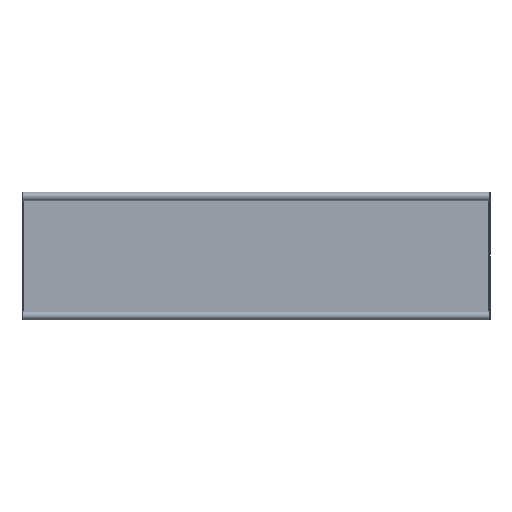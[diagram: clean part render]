
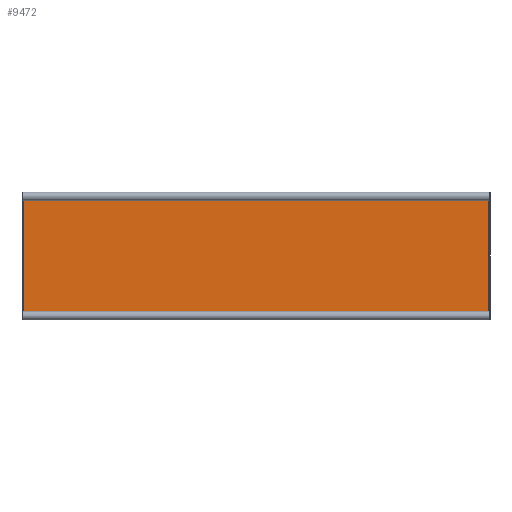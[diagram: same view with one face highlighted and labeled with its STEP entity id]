
A CAD part, front view. The second image highlights one B-rep face of the part: STEP entity #9472.
In plain terms, the highlighted planar face has unit normal (0, -1, 0).
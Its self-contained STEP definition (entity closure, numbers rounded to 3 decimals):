
#93 = DIRECTION ( 'NONE',  ( 0., 0., 1. ) ) ;
#97 = CARTESIAN_POINT ( 'NONE',  ( 546., -2., -149. ) ) ;
#411 = DIRECTION ( 'NONE',  ( 0., 1., 0. ) ) ;
#523 = CARTESIAN_POINT ( 'NONE',  ( -549., -2., 146. ) ) ;
#553 = PLANE ( 'NONE',  #661 ) ;
#661 = AXIS2_PLACEMENT_3D ( 'NONE', #4473, #411, #6706 ) ;
#732 = CARTESIAN_POINT ( 'NONE',  ( 546., -2., -145. ) ) ;
#820 = VERTEX_POINT ( 'NONE', #1313 ) ;
#1010 = EDGE_CURVE ( 'NONE', #2019, #820, #4318, .T. ) ;
#1013 = VECTOR ( 'NONE', #4876, 1000. ) ;
#1258 = ORIENTED_EDGE ( 'NONE', *, *, #4924, .F. ) ;
#1313 = CARTESIAN_POINT ( 'NONE',  ( -546., -2., 145. ) ) ;
#1361 = DIRECTION ( 'NONE',  ( 0., -1., 0. ) ) ;
#1382 = DIRECTION ( 'NONE',  ( 1., 0., 0. ) ) ;
#1557 = AXIS2_PLACEMENT_3D ( 'NONE', #5482, #6294, #93 ) ;
#1749 = DIRECTION ( 'NONE',  ( 0., 0., 1. ) ) ;
#1987 = CARTESIAN_POINT ( 'NONE',  ( -545., -2., 146. ) ) ;
#2019 = VERTEX_POINT ( 'NONE', #4567 ) ;
#2188 = VECTOR ( 'NONE', #1382, 1000. ) ;
#2276 = ORIENTED_EDGE ( 'NONE', *, *, #6664, .F. ) ;
#2418 = ORIENTED_EDGE ( 'NONE', *, *, #5434, .F. ) ;
#2464 = VERTEX_POINT ( 'NONE', #4199 ) ;
#2495 = CIRCLE ( 'NONE', #8157, 5. ) ;
#2729 = CARTESIAN_POINT ( 'NONE',  ( -549., -2., -146. ) ) ;
#2918 = CARTESIAN_POINT ( 'NONE',  ( 549., -2., -149. ) ) ;
#2975 = EDGE_CURVE ( 'NONE', #820, #3569, #8206, .T. ) ;
#3013 = EDGE_LOOP ( 'NONE', ( #2276, #6821, #2418, #1258, #9251, #6206, #6620, #8239 ) ) ;
#3329 = DIRECTION ( 'NONE',  ( 0., 0., 1. ) ) ;
#3569 = VERTEX_POINT ( 'NONE', #1987 ) ;
#3657 = DIRECTION ( 'NONE',  ( 1., 0., 0. ) ) ;
#3964 = AXIS2_PLACEMENT_3D ( 'NONE', #2918, #6612, #1749 ) ;
#3969 = CARTESIAN_POINT ( 'NONE',  ( 546., -2., 145. ) ) ;
#4011 = CARTESIAN_POINT ( 'NONE',  ( 545., -2., -146. ) ) ;
#4025 = LINE ( 'NONE', #97, #1013 ) ;
#4199 = CARTESIAN_POINT ( 'NONE',  ( 545., -2., 146. ) ) ;
#4318 = LINE ( 'NONE', #5744, #8688 ) ;
#4470 = DIRECTION ( 'NONE',  ( 0., 0., 1. ) ) ;
#4473 = CARTESIAN_POINT ( 'NONE',  ( -549., -2., -149. ) ) ;
#4567 = CARTESIAN_POINT ( 'NONE',  ( -546., -2., -145. ) ) ;
#4778 = DIRECTION ( 'NONE',  ( 0., -1., 0. ) ) ;
#4876 = DIRECTION ( 'NONE',  ( 0., 0., 1. ) ) ;
#4890 = VERTEX_POINT ( 'NONE', #732 ) ;
#4924 = EDGE_CURVE ( 'NONE', #3569, #2464, #7489, .T. ) ;
#5434 = EDGE_CURVE ( 'NONE', #2464, #10049, #2495, .T. ) ;
#5482 = CARTESIAN_POINT ( 'NONE',  ( -549., -2., 149. ) ) ;
#5596 = CARTESIAN_POINT ( 'NONE',  ( -549., -2., -149. ) ) ;
#5744 = CARTESIAN_POINT ( 'NONE',  ( -546., -2., -149. ) ) ;
#6074 = EDGE_CURVE ( 'NONE', #4890, #10049, #4025, .T. ) ;
#6206 = ORIENTED_EDGE ( 'NONE', *, *, #1010, .F. ) ;
#6294 = DIRECTION ( 'NONE',  ( 0., -1., 0. ) ) ;
#6393 = CIRCLE ( 'NONE', #3964, 5. ) ;
#6612 = DIRECTION ( 'NONE',  ( 0., -1., 0. ) ) ;
#6620 = ORIENTED_EDGE ( 'NONE', *, *, #8899, .F. ) ;
#6664 = EDGE_CURVE ( 'NONE', #4890, #6708, #6393, .T. ) ;
#6706 = DIRECTION ( 'NONE',  ( 0., 0., 1. ) ) ;
#6708 = VERTEX_POINT ( 'NONE', #4011 ) ;
#6821 = ORIENTED_EDGE ( 'NONE', *, *, #6074, .T. ) ;
#6971 = CIRCLE ( 'NONE', #9253, 5. ) ;
#6989 = VERTEX_POINT ( 'NONE', #9900 ) ;
#7489 = LINE ( 'NONE', #523, #9376 ) ;
#7965 = EDGE_CURVE ( 'NONE', #6989, #6708, #9691, .T. ) ;
#8157 = AXIS2_PLACEMENT_3D ( 'NONE', #9098, #1361, #4470 ) ;
#8206 = CIRCLE ( 'NONE', #1557, 5. ) ;
#8239 = ORIENTED_EDGE ( 'NONE', *, *, #7965, .T. ) ;
#8284 = FACE_OUTER_BOUND ( 'NONE', #3013, .T. ) ;
#8688 = VECTOR ( 'NONE', #3329, 1000. ) ;
#8899 = EDGE_CURVE ( 'NONE', #6989, #2019, #6971, .T. ) ;
#9098 = CARTESIAN_POINT ( 'NONE',  ( 549., -2., 149. ) ) ;
#9251 = ORIENTED_EDGE ( 'NONE', *, *, #2975, .F. ) ;
#9253 = AXIS2_PLACEMENT_3D ( 'NONE', #5596, #4778, #9516 ) ;
#9376 = VECTOR ( 'NONE', #3657, 1000. ) ;
#9472 = ADVANCED_FACE ( 'NONE', ( #8284 ), #553, .F. ) ;
#9516 = DIRECTION ( 'NONE',  ( 0., 0., 1. ) ) ;
#9691 = LINE ( 'NONE', #2729, #2188 ) ;
#9900 = CARTESIAN_POINT ( 'NONE',  ( -545., -2., -146. ) ) ;
#10049 = VERTEX_POINT ( 'NONE', #3969 ) ;
